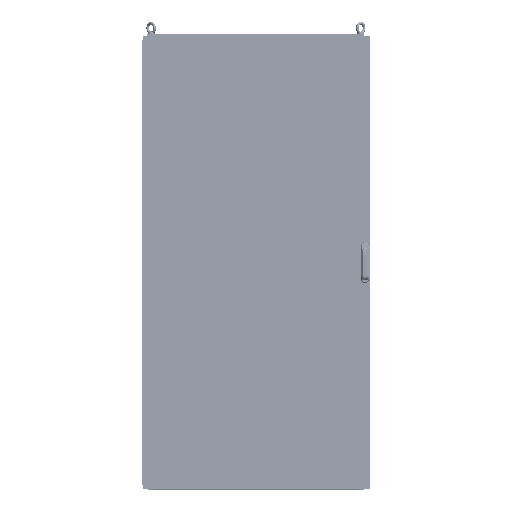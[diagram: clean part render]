
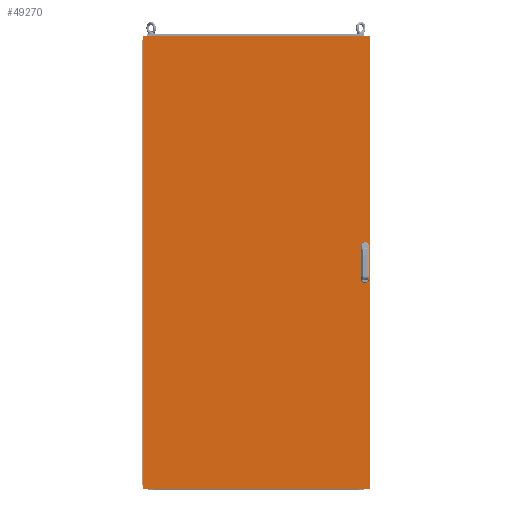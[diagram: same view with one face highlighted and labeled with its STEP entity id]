
A CAD part, front view. The second image highlights one B-rep face of the part: STEP entity #49270.
In plain terms, the highlighted planar face has unit normal (0, -1, 0).
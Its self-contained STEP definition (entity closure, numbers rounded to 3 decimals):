
#5916=LINE('',#79146,#11004);
#5917=LINE('',#79149,#11005);
#5918=LINE('',#79151,#11006);
#5919=LINE('',#79153,#11007);
#5920=LINE('',#79154,#11008);
#5921=LINE('',#79157,#11009);
#5922=LINE('',#79159,#11010);
#5923=LINE('',#79161,#11011);
#5924=LINE('',#79162,#11012);
#5925=LINE('',#79165,#11013);
#5926=LINE('',#79167,#11014);
#5927=LINE('',#79169,#11015);
#11004=VECTOR('',#65299,1000.);
#11005=VECTOR('',#65300,1000.);
#11006=VECTOR('',#65301,1000.);
#11007=VECTOR('',#65302,1000.);
#11008=VECTOR('',#65303,1000.);
#11009=VECTOR('',#65304,1000.);
#11010=VECTOR('',#65305,1000.);
#11011=VECTOR('',#65306,1000.);
#11012=VECTOR('',#65307,1000.);
#11013=VECTOR('',#65308,1000.);
#11014=VECTOR('',#65309,1000.);
#11015=VECTOR('',#65310,1000.);
#21949=ORIENTED_EDGE('',*,*,#29828,.T.);
#21950=ORIENTED_EDGE('',*,*,#29829,.T.);
#21951=ORIENTED_EDGE('',*,*,#29830,.T.);
#21952=ORIENTED_EDGE('',*,*,#29831,.T.);
#21953=ORIENTED_EDGE('',*,*,#29832,.T.);
#21954=ORIENTED_EDGE('',*,*,#29833,.T.);
#21955=ORIENTED_EDGE('',*,*,#29834,.T.);
#21956=ORIENTED_EDGE('',*,*,#29835,.T.);
#21957=ORIENTED_EDGE('',*,*,#29836,.F.);
#21958=ORIENTED_EDGE('',*,*,#29837,.F.);
#21959=ORIENTED_EDGE('',*,*,#29838,.F.);
#21960=ORIENTED_EDGE('',*,*,#29839,.F.);
#29828=EDGE_CURVE('',#34805,#34806,#5916,.T.);
#29829=EDGE_CURVE('',#34806,#34807,#5917,.T.);
#29830=EDGE_CURVE('',#34807,#34808,#5918,.T.);
#29831=EDGE_CURVE('',#34808,#34805,#5919,.T.);
#29832=EDGE_CURVE('',#34809,#34810,#5920,.T.);
#29833=EDGE_CURVE('',#34810,#34811,#5921,.T.);
#29834=EDGE_CURVE('',#34811,#34812,#5922,.T.);
#29835=EDGE_CURVE('',#34812,#34809,#5923,.T.);
#29836=EDGE_CURVE('',#34813,#34814,#5924,.T.);
#29837=EDGE_CURVE('',#34815,#34813,#5925,.T.);
#29838=EDGE_CURVE('',#34816,#34815,#5926,.T.);
#29839=EDGE_CURVE('',#34814,#34816,#5927,.T.);
#34805=VERTEX_POINT('',#79147);
#34806=VERTEX_POINT('',#79148);
#34807=VERTEX_POINT('',#79150);
#34808=VERTEX_POINT('',#79152);
#34809=VERTEX_POINT('',#79155);
#34810=VERTEX_POINT('',#79156);
#34811=VERTEX_POINT('',#79158);
#34812=VERTEX_POINT('',#79160);
#34813=VERTEX_POINT('',#79163);
#34814=VERTEX_POINT('',#79164);
#34815=VERTEX_POINT('',#79166);
#34816=VERTEX_POINT('',#79168);
#40313=EDGE_LOOP('',(#21949,#21950,#21951,#21952));
#40314=EDGE_LOOP('',(#21953,#21954,#21955,#21956));
#40315=EDGE_LOOP('',(#21957,#21958,#21959,#21960));
#44590=FACE_BOUND('',#40313,.T.);
#44591=FACE_BOUND('',#40314,.T.);
#44592=FACE_BOUND('',#40315,.T.);
#47076=PLANE('',#54417);
#49270=ADVANCED_FACE('',(#44590,#44591,#44592),#47076,.F.);
#54417=AXIS2_PLACEMENT_3D('',#79145,#65297,#65298);
#65297=DIRECTION('',(0.,1.,0.));
#65298=DIRECTION('',(-1.,0.,0.));
#65299=DIRECTION('',(-1.,0.,0.));
#65300=DIRECTION('',(0.,0.,1.));
#65301=DIRECTION('',(1.,0.,0.));
#65302=DIRECTION('',(0.,0.,-1.));
#65303=DIRECTION('',(-1.,0.,0.));
#65304=DIRECTION('',(0.,0.,1.));
#65305=DIRECTION('',(1.,0.,0.));
#65306=DIRECTION('',(0.,0.,-1.));
#65307=DIRECTION('',(0.,0.,1.));
#65308=DIRECTION('',(-1.,0.,0.));
#65309=DIRECTION('',(0.,0.,-1.));
#65310=DIRECTION('',(1.,0.,0.));
#79145=CARTESIAN_POINT('',(0.,-13.25,0.));
#79146=CARTESIAN_POINT('',(490.5,-13.25,25.));
#79147=CARTESIAN_POINT('',(490.5,-13.25,25.));
#79148=CARTESIAN_POINT('',(465.5,-13.25,25.));
#79149=CARTESIAN_POINT('',(465.5,-13.25,25.));
#79150=CARTESIAN_POINT('',(465.5,-13.25,75.));
#79151=CARTESIAN_POINT('',(465.5,-13.25,75.));
#79152=CARTESIAN_POINT('',(490.5,-13.25,75.));
#79153=CARTESIAN_POINT('',(490.5,-13.25,75.));
#79154=CARTESIAN_POINT('',(490.5,-13.25,-75.));
#79155=CARTESIAN_POINT('',(490.5,-13.25,-75.));
#79156=CARTESIAN_POINT('',(465.5,-13.25,-75.));
#79157=CARTESIAN_POINT('',(465.5,-13.25,-75.));
#79158=CARTESIAN_POINT('',(465.5,-13.25,-25.));
#79159=CARTESIAN_POINT('',(465.5,-13.25,-25.));
#79160=CARTESIAN_POINT('',(490.5,-13.25,-25.));
#79161=CARTESIAN_POINT('',(490.5,-13.25,-25.));
#79162=CARTESIAN_POINT('',(-499.5,-13.25,-995.));
#79163=CARTESIAN_POINT('',(-499.5,-13.25,-995.));
#79164=CARTESIAN_POINT('',(-499.5,-13.25,995.));
#79165=CARTESIAN_POINT('',(499.5,-13.25,-995.));
#79166=CARTESIAN_POINT('',(499.5,-13.25,-995.));
#79167=CARTESIAN_POINT('',(499.5,-13.25,995.));
#79168=CARTESIAN_POINT('',(499.5,-13.25,995.));
#79169=CARTESIAN_POINT('',(-499.5,-13.25,995.));
